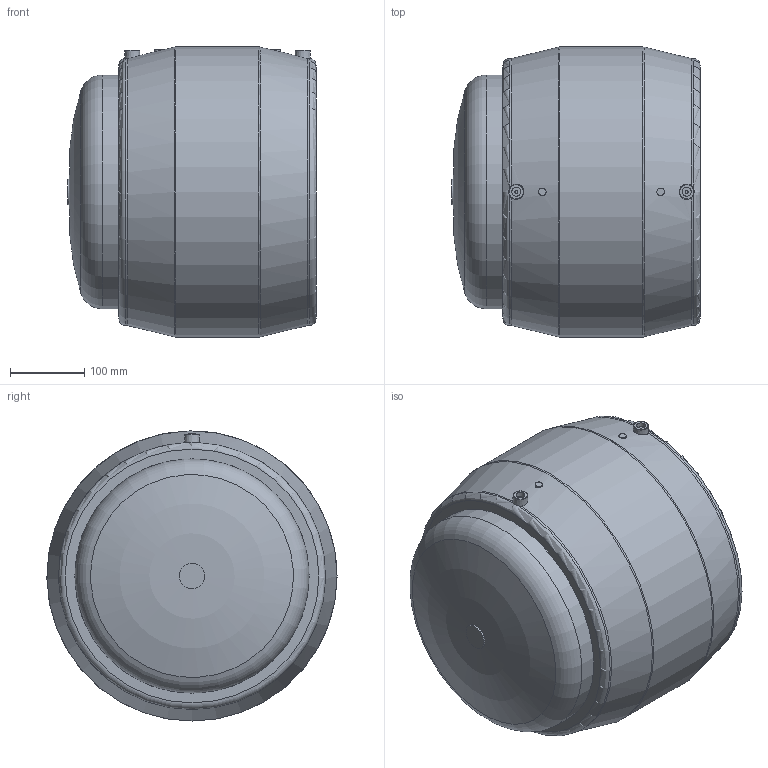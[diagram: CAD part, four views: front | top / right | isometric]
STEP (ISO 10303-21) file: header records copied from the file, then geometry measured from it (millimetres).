
FILE_DESCRIPTION(/* description */ ('Unknown'),/* implementation_level */ '2;1');
FILE_NAME(/* name */ 'CAEP315C',/* time_stamp */ '2021-02-11T10:29:40+01:00',/* author */ ('Unknown'),/* organization */ ('Unknown'),/* preprocessor_version */ 'ST-DEVELOPER v16.7',/* originating_system */ 'Solid Edge',/* authorisation */ 'Unknown');
FILE_SCHEMA (('AUTOMOTIVE_DESIGN {1 0 10303 214 3 1 1}'));
Length unit declared in the file: millimetre
Products named in the file (3): CAEP315C; MP315C; CAP315C
Assembly tree (2 placements, depth 2):
  CAEP315C
    MP315C
    CAP315C
Bounding box: 333.5 x 390 x 390 mm (x, y, z)
Volume: 15692985.7 mm3; surface area: 1072300.8 mm2
Topology: 2 solids, 2 shells, 41 faces, 87 edges, 56 vertices
Faces by surface type: cylinder 13, plane 12, torus 10, cone 6
Full cylindrical faces by diameter (mm): 4 x2, 10 x2, 12 x2, 34 x1, 257.8 x1, 315 x2, 390 x1
Entity records: 979 total; most frequent: CARTESIAN_POINT 201, DIRECTION 160, ORIENTED_EDGE 92, AXIS2_PLACEMENT_3D 80, FACE_BOUND 77, EDGE_LOOP 76, EDGE_CURVE 46, VERTEX_POINT 43
